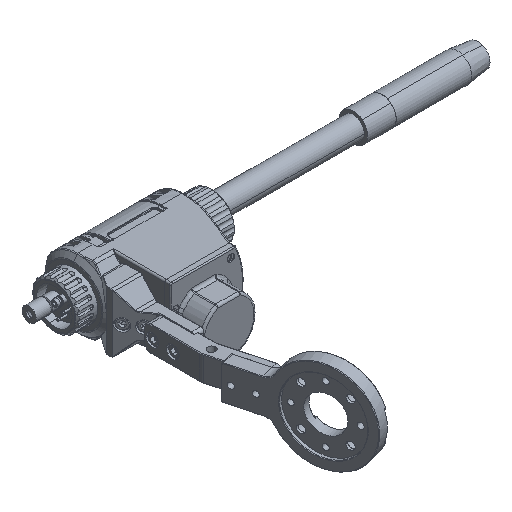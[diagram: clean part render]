
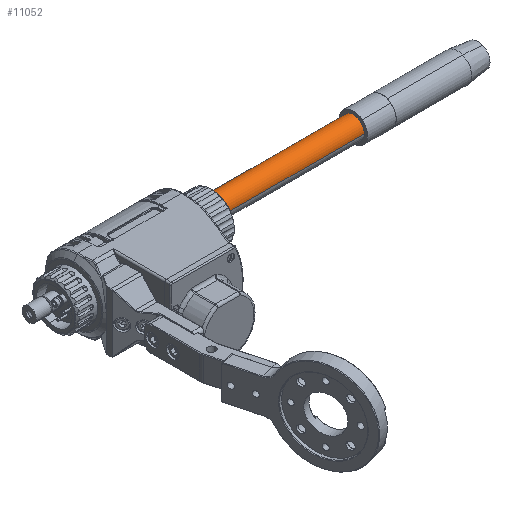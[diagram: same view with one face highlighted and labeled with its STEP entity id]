
A CAD part, isometric view. The second image highlights one B-rep face of the part: STEP entity #11052.
In plain terms, the highlighted cylindrical face has radius 9.55 mm (diameter 19.1 mm), a partial arc.
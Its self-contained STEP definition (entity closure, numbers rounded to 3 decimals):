
#2298 = ORIENTED_EDGE ( 'NONE', *, *, #27005, .T. ) ;
#2822 = AXIS2_PLACEMENT_3D ( 'NONE', #21151, #21015, #24125 ) ;
#3472 = AXIS2_PLACEMENT_3D ( 'NONE', #35708, #23600, #38325 ) ;
#4585 = CARTESIAN_POINT ( 'NONE',  ( 199., 25.55, 3.5 ) ) ;
#4939 = VERTEX_POINT ( 'NONE', #9368 ) ;
#6488 = EDGE_CURVE ( 'NONE', #20727, #30957, #7773, .T. ) ;
#7773 = CIRCLE ( 'NONE', #2822, 9.55 ) ;
#9368 = CARTESIAN_POINT ( 'NONE',  ( 199., 6.45, 3.5 ) ) ;
#11052 = ADVANCED_FACE ( 'NONE', ( #28686 ), #21253, .T. ) ;
#12899 = ORIENTED_EDGE ( 'NONE', *, *, #13805, .T. ) ;
#13805 = EDGE_CURVE ( 'NONE', #20727, #4939, #23651, .T. ) ;
#13848 = EDGE_LOOP ( 'NONE', ( #20044, #34868, #12899, #2298 ) ) ;
#13863 = DIRECTION ( 'NONE',  ( 1., 0., 0. ) ) ;
#14088 = DIRECTION ( 'NONE',  ( 1., 0., 0. ) ) ;
#16485 = AXIS2_PLACEMENT_3D ( 'NONE', #28876, #32033, #20896 ) ;
#16633 = EDGE_CURVE ( 'NONE', #30957, #19121, #35913, .T. ) ;
#19121 = VERTEX_POINT ( 'NONE', #4585 ) ;
#20044 = ORIENTED_EDGE ( 'NONE', *, *, #16633, .F. ) ;
#20727 = VERTEX_POINT ( 'NONE', #29921 ) ;
#20896 = DIRECTION ( 'NONE',  ( 0., -1., 0. ) ) ;
#21015 = DIRECTION ( 'NONE',  ( -1., 0., 0. ) ) ;
#21151 = CARTESIAN_POINT ( 'NONE',  ( 72., 16., 3.5 ) ) ;
#21253 = CYLINDRICAL_SURFACE ( 'NONE', #16485, 9.55 ) ;
#21573 = CIRCLE ( 'NONE', #3472, 9.55 ) ;
#22303 = VECTOR ( 'NONE', #13863, 1000. ) ;
#22660 = CARTESIAN_POINT ( 'NONE',  ( 72., 25.55, 3.5 ) ) ;
#23184 = VECTOR ( 'NONE', #14088, 1000. ) ;
#23600 = DIRECTION ( 'NONE',  ( -1., 0., 0. ) ) ;
#23651 = LINE ( 'NONE', #28725, #22303 ) ;
#24125 = DIRECTION ( 'NONE',  ( 0., 0., 1. ) ) ;
#27005 = EDGE_CURVE ( 'NONE', #4939, #19121, #21573, .T. ) ;
#28686 = FACE_OUTER_BOUND ( 'NONE', #13848, .T. ) ;
#28725 = CARTESIAN_POINT ( 'NONE',  ( 72., 6.45, 3.5 ) ) ;
#28876 = CARTESIAN_POINT ( 'NONE',  ( 72., 16., 3.5 ) ) ;
#29921 = CARTESIAN_POINT ( 'NONE',  ( 72., 6.45, 3.5 ) ) ;
#30957 = VERTEX_POINT ( 'NONE', #22660 ) ;
#32033 = DIRECTION ( 'NONE',  ( 1., 0., 0. ) ) ;
#34868 = ORIENTED_EDGE ( 'NONE', *, *, #6488, .F. ) ;
#35024 = CARTESIAN_POINT ( 'NONE',  ( 72., 25.55, 3.5 ) ) ;
#35708 = CARTESIAN_POINT ( 'NONE',  ( 199., 16., 3.5 ) ) ;
#35913 = LINE ( 'NONE', #35024, #23184 ) ;
#38325 = DIRECTION ( 'NONE',  ( 0., 0., 1. ) ) ;
